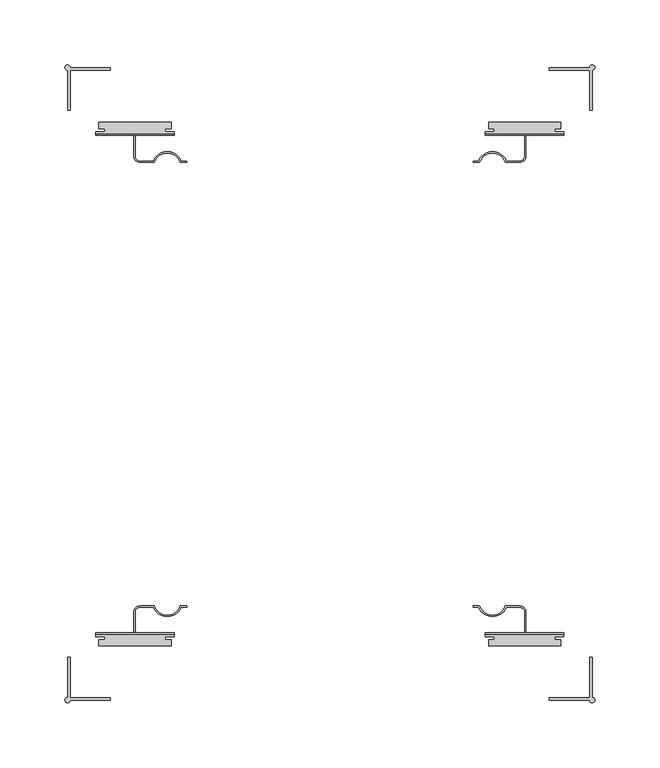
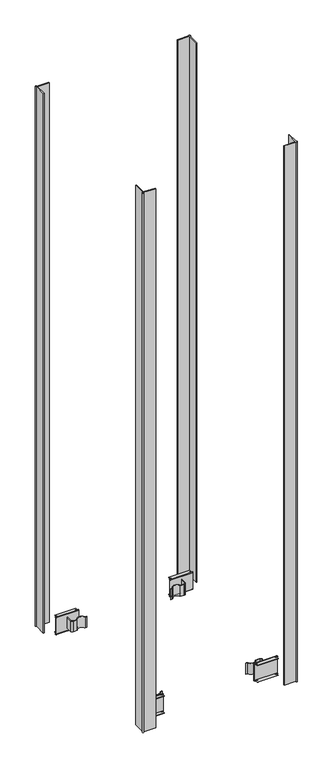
"""IFC4 building model written with IfcOpenShell, lengths in millimetres: column geometry, Облицовка колонн : КНАУФ-Файерборд один слой 20."""

from ifc_helpers import new_model, si_unit, point, frame, frame_2d, origin, origin_with_axes, place, context, project, spatial, polyline, circle_curve, trimmed, segment, composite_curve, outline, extrude, source, transform, mapped, element, save
from ifc_brep_helpers import plane_surface, cylinder_surface, advanced_brep


def column_ee933b32(model_context):
    return source(origin(), model_context, "Body", "SolidModel", [
        extrude(outline(composite_curve([segment(polyline([(169.0, -241.5), (200.0, -241.5), (200.0, -210.5), (201.9874508, -210.5), (201.9874508, -241.5436745)]), True, "CONTINUOUS"), segment(trimmed(circle_curve(frame_2d((201.9874508, -243.5311253)), 1.9874508), [point((201.9874508, -241.5436745))], [point((200.0, -243.5311253))], False, "CARTESIAN"), True, "CONTINUOUS"), segment(polyline([(200.0, -243.5311253), (169.0, -243.5311253), (169.0, -241.5)]), True, "CONTINUOUS")], self_intersect=False)), origin_with_axes(), (0.0, 0.0, 1.0), 1500.0),
        extrude(outline(composite_curve([segment(polyline([(169.0, 241.5), (169.0, 243.5311253), (200.0, 243.5311253)]), True, "CONTINUOUS"), segment(trimmed(circle_curve(frame_2d((201.9874508, 243.5311253)), 1.9874508), [point((200.0, 243.5311253))], [point((201.9874508, 241.5436745))], False, "CARTESIAN"), True, "CONTINUOUS"), segment(polyline([(201.9874508, 241.5436745), (201.9874508, 210.5), (200.0, 210.5), (200.0, 241.5), (169.0, 241.5)]), True, "CONTINUOUS")], self_intersect=False)), origin_with_axes(), (0.0, 0.0, 1.0), 1500.0),
        extrude(outline(composite_curve([segment(polyline([(-169.0, -241.5), (-169.0, -243.5311253), (-200.0, -243.5311253)]), True, "CONTINUOUS"), segment(trimmed(circle_curve(frame_2d((-201.9874508, -243.5311253)), 1.9874508), [point((-200.0, -243.5311253))], [point((-201.9874508, -241.5436745))], False, "CARTESIAN"), True, "CONTINUOUS"), segment(polyline([(-201.9874508, -241.5436745), (-201.9874508, -210.5), (-200.0, -210.5), (-200.0, -241.5), (-169.0, -241.5)]), True, "CONTINUOUS")], self_intersect=False)), origin_with_axes(), (0.0, 0.0, 1.0), 1500.0),
        extrude(outline(composite_curve([segment(polyline([(-169.0, 241.5), (-200.0, 241.5), (-200.0, 210.5), (-201.9874508, 210.5), (-201.9874508, 241.5436745)]), True, "CONTINUOUS"), segment(trimmed(circle_curve(frame_2d((-201.9874508, 243.5311253)), 1.9874508), [point((-201.9874508, 241.5436745))], [point((-200.0, 243.5311253))], False, "CARTESIAN"), True, "CONTINUOUS"), segment(polyline([(-200.0, 243.5311253), (-169.0, 243.5311253), (-169.0, 241.5)]), True, "CONTINUOUS")], self_intersect=False)), origin_with_axes(), (0.0, 0.0, 1.0), 1500.0),
        advanced_brep(
        [(-180.2, 191.5, 46.0), (-180.2, 192.5, 47.0), (-180.2, 194.5, 47.0), (-180.2, 194.5, 46.0), (-180.2, 192.5, 46.0), (-180.2, 192.5, 0.0), (-180.2, 194.5, 0.0), (-180.2, 194.5, -1.0), (-180.2, 192.5, -1.0), (-180.2, 191.5, 0.0), (-119.8, 191.5, 46.0), (-119.8, 191.5, 0.0), (-119.8, 192.5, -1.0), (-119.8, 194.5, -1.0), (-119.8, 194.5, 0.0), (-119.8, 192.5, 0.0), (-119.8, 192.5, 46.0), (-119.8, 194.5, 46.0), (-119.8, 194.5, 47.0), (-119.8, 192.5, 47.0), (-126.6838154, 194.5, 47.0), (-126.6838154, 196.8, 47.0), (-122.2, 196.8, 47.0), (-122.2, 201.5, 47.0), (-177.8, 201.5, 47.0), (-177.8, 196.8, 47.0), (-173.3161846, 196.8, 47.0), (-173.3161846, 194.5, 47.0), (-177.8, 201.5, 46.0), (-122.2, 201.5, 46.0), (-173.3161846, 194.5, 46.0), (-173.3161846, 196.8, 46.0), (-177.8, 196.8, 46.0), (-122.2, 196.8, 46.0), (-126.6838154, 196.8, 46.0), (-126.6838154, 194.5, 46.0), (-126.6838154, 194.5, 0.0), (-126.6838154, 196.8, 0.0), (-122.2, 196.8, 0.0), (-122.2, 201.5, 0.0), (-177.8, 201.5, 0.0), (-177.8, 196.8, 0.0), (-173.3161846, 196.8, 0.0), (-173.3161846, 194.5, 0.0), (-177.8, 201.5, -1.0), (-122.2, 201.5, -1.0), (-173.3161846, 194.5, -1.0), (-173.3161846, 196.8, -1.0), (-177.8, 196.8, -1.0), (-122.2, 196.8, -1.0), (-126.6838154, 196.8, -1.0), (-126.6838154, 194.5, -1.0)],
        [
            (0, 1, circle_curve(frame((-180.2, 192.5, 46.0), z_axis=(-1.0, 0.0, 0.0), x_axis=(0.0, -1.0, 0.0)), 1.0)),
            (1, 2),
            (2, 3),
            (3, 4),
            (4, 5),
            (5, 6),
            (6, 7),
            (7, 8),
            (8, 9, circle_curve(frame((-180.2, 192.5, 0.0), z_axis=(-1.0, 0.0, 0.0), x_axis=(0.0, -1.0, 0.0)), 1.0)),
            (9, 0),
            (10, 11),
            (11, 12, circle_curve(frame((-119.8, 192.5, 0.0), z_axis=(1.0, 0.0, 0.0), x_axis=(0.0, -1.0, 0.0)), 1.0)),
            (12, 13),
            (13, 14),
            (14, 15),
            (15, 16),
            (16, 17),
            (17, 18),
            (18, 19),
            (19, 10, circle_curve(frame((-119.8, 192.5, 46.0), z_axis=(1.0, 0.0, 0.0), x_axis=(0.0, -1.0, 0.0)), 1.0)),
            (0, 10),
            (19, 1),
            (18, 20),
            (20, 21),
            (21, 22),
            (22, 23),
            (23, 24),
            (24, 25),
            (25, 26),
            (26, 27),
            (27, 2),
            (28, 24),
            (23, 29),
            (29, 28),
            (16, 4),
            (3, 30),
            (30, 31),
            (31, 32),
            (32, 28),
            (29, 33),
            (33, 34),
            (34, 35),
            (35, 17),
            (15, 5),
            (14, 36),
            (36, 37),
            (37, 38),
            (38, 39),
            (39, 40),
            (40, 41),
            (41, 42),
            (42, 43),
            (43, 6),
            (44, 40),
            (39, 45),
            (45, 44),
            (12, 8),
            (7, 46),
            (46, 47),
            (47, 48),
            (48, 44),
            (45, 49),
            (49, 50),
            (50, 51),
            (51, 13),
            (11, 9),
            (30, 27),
            (26, 31),
            (46, 43),
            (42, 47),
            (25, 32),
            (41, 48),
            (34, 21),
            (20, 35),
            (50, 37),
            (36, 51),
            (33, 22),
            (49, 38),
        ],
        [
            plane_surface(frame((-180.2, 191.5, 46.0), z_axis=(-1.0, 0.0, 0.0), x_axis=(0.0, 0.0, 1.0))),
            plane_surface(frame((-119.8, 191.5, 46.0), z_axis=(1.0, 0.0, 0.0), x_axis=(0.0, 0.0, -1.0))),
            cylinder_surface(frame((-119.8, 192.5, 46.0), z_axis=(-1.0, 0.0, 0.0), x_axis=(0.0, -1.0, 0.0)), 1.0),
            plane_surface(frame((-180.2, 192.5, 47.0), z_axis=(0.0, 0.0, 1.0), x_axis=(1.0, 0.0, 0.0))),
            plane_surface(frame((-180.2, 201.5, 47.0), z_axis=(0.0, 1.0, 0.0), x_axis=(1.0, 0.0, 0.0))),
            plane_surface(frame((-180.2, 201.5, 46.0), z_axis=(0.0, 0.0, -1.0), x_axis=(1.0, 0.0, 0.0))),
            plane_surface(frame((-180.2, 192.5, 46.0), z_axis=(0.0, 1.0, 0.0), x_axis=(1.0, 0.0, 0.0))),
            plane_surface(frame((-180.2, 192.5, 0.0), z_axis=(0.0, 0.0, 1.0), x_axis=(1.0, 0.0, 0.0))),
            plane_surface(frame((-180.2, 201.5, 0.0), z_axis=(0.0, 1.0, 0.0), x_axis=(1.0, 0.0, 0.0))),
            plane_surface(frame((-180.2, 201.5, -1.0), z_axis=(0.0, 0.0, -1.0), x_axis=(1.0, 0.0, 0.0))),
            cylinder_surface(frame((-119.8, 192.5, 0.0), z_axis=(-1.0, 0.0, 0.0), x_axis=(0.0, -1.0, 0.0)), 1.0),
            plane_surface(frame((-180.2, 191.5, 0.0), z_axis=(0.0, -1.0, 0.0), x_axis=(1.0, 0.0, 0.0))),
            plane_surface(frame((-173.3161846, 194.5, 47.0), z_axis=(-1.0, 0.0, 0.0), x_axis=(0.0, 0.0, -1.0))),
            plane_surface(frame((-173.3161846, 196.8, 47.0), z_axis=(0.0, -1.0, 0.0), x_axis=(0.0, 0.0, -1.0))),
            plane_surface(frame((-177.8, 196.8, 47.0), z_axis=(-1.0, 0.0, 0.0), x_axis=(0.0, 0.0, -1.0))),
            plane_surface(frame((-180.2, 194.5, 47.0), z_axis=(0.0, 1.0, 0.0), x_axis=(0.0, 0.0, -1.0))),
            plane_surface(frame((-126.6838154, 196.8, 47.0), z_axis=(1.0, 0.0, 0.0), x_axis=(0.0, 0.0, -1.0))),
            plane_surface(frame((-122.2, 196.8, 47.0), z_axis=(0.0, -1.0, 0.0), x_axis=(0.0, 0.0, -1.0))),
            plane_surface(frame((-122.2, 201.5, 47.0), z_axis=(1.0, 0.0, 0.0), x_axis=(0.0, 0.0, -1.0))),
            plane_surface(frame((-126.6838154, 194.5, 47.0), z_axis=(0.0, 1.0, 0.0), x_axis=(0.0, 0.0, -1.0))),
        ],
        [
            (0, [[1, 2, 3, 4, 5, 6, 7, 8, 9, 10]]),
            (1, [[11, 12, 13, 14, 15, 16, 17, 18, 19, 20]]),
            (2, [[-1, 21, -20, 22]]),
            (3, [[-22, -19, 23, 24, 25, 26, 27, 28, 29, 30, 31, -2]]),
            (4, [[32, -27, 33, 34]]),
            (5, [[35, -4, 36, 37, 38, 39, -34, 40, 41, 42, 43, -17]]),
            (6, [[-5, -35, -16, 44]]),
            (7, [[-44, -15, 45, 46, 47, 48, 49, 50, 51, 52, 53, -6]]),
            (8, [[54, -49, 55, 56]]),
            (9, [[57, -8, 58, 59, 60, 61, -56, 62, 63, 64, 65, -13]]),
            (10, [[-9, -57, -12, 66]]),
            (11, [[-10, -66, -11, -21]]),
            (12, [[67, -30, 68, -37]]),
            (12, [[69, -52, 70, -59]]),
            (13, [[-68, -29, 71, -38]]),
            (13, [[-70, -51, 72, -60]]),
            (14, [[-71, -28, -32, -39]]),
            (14, [[-72, -50, -54, -61]]),
            (15, [[-67, -36, -3, -31]]),
            (15, [[-69, -58, -7, -53]]),
            (16, [[73, -24, 74, -42]]),
            (16, [[75, -46, 76, -64]]),
            (17, [[-73, -41, 77, -25]]),
            (17, [[-75, -63, 78, -47]]),
            (18, [[-77, -40, -33, -26]]),
            (18, [[-78, -62, -55, -48]]),
            (19, [[-74, -23, -18, -43]]),
            (19, [[-76, -45, -14, -65]]),
        ],
    ),
        extrude(outline(composite_curve([segment(trimmed(circle_curve(frame_2d((-125.2, 167.4974781)), 10.5025219), [point((-115.2, 170.7073015))], [point((-135.2, 170.7073015))], True, "CARTESIAN"), True, "CONTINUOUS"), segment(polyline([(-135.2, 170.7073015), (-146.0, 170.7073015)]), True, "CONTINUOUS"), segment(trimmed(circle_curve(frame_2d((-146.0, 175.7073015)), 5.0), [point((-146.0, 170.7073015))], [point((-151.0, 175.7073015))], False, "CARTESIAN"), True, "CONTINUOUS"), segment(polyline([(-151.0, 175.7073015), (-151.0, 191.5), (-150.0, 191.5), (-150.0, 175.7073015)]), True, "CONTINUOUS"), segment(trimmed(circle_curve(frame_2d((-146.0, 175.7073015)), 4.0), [point((-150.0, 175.7073015))], [point((-146.0, 171.7073015))], True, "CARTESIAN"), True, "CONTINUOUS"), segment(polyline([(-146.0, 171.7073015), (-135.9044569, 171.7073015)]), True, "CONTINUOUS"), segment(trimmed(circle_curve(frame_2d((-125.2, 167.4974781)), 11.5025219), [point((-135.9044569, 171.7073015))], [point((-114.4955431, 171.7073015))], False, "CARTESIAN"), True, "CONTINUOUS"), segment(polyline([(-114.4955431, 171.7073015), (-110.2, 171.7073015), (-110.2, 170.7073015), (-115.2, 170.7073015)]), True, "CONTINUOUS")], self_intersect=False)), frame((0.0, 0.0, 8.0), z_axis=(0.0, 0.0, 1.0), x_axis=(1.0, 0.0, 0.0)), (0.0, 0.0, 1.0), 30.0),
        advanced_brep(
        [(180.2, 191.5, 46.0), (180.2, 191.5, 0.0), (180.2, 192.5, -1.0), (180.2, 194.5, -1.0), (180.2, 194.5, 0.0), (180.2, 192.5, 0.0), (180.2, 192.5, 46.0), (180.2, 194.5, 46.0), (180.2, 194.5, 47.0), (180.2, 192.5, 47.0), (119.8, 191.5, 46.0), (119.8, 192.5, 47.0), (119.8, 194.5, 47.0), (119.8, 194.5, 46.0), (119.8, 192.5, 46.0), (119.8, 192.5, 0.0), (119.8, 194.5, 0.0), (119.8, 194.5, -1.0), (119.8, 192.5, -1.0), (119.8, 191.5, 0.0), (173.3161846, 194.5, 47.0), (173.3161846, 196.8, 47.0), (177.8, 196.8, 47.0), (177.8, 201.5, 47.0), (122.2, 201.5, 47.0), (122.2, 196.8, 47.0), (126.6838154, 196.8, 47.0), (126.6838154, 194.5, 47.0), (177.8, 201.5, 46.0), (122.2, 201.5, 46.0), (126.6838154, 194.5, 46.0), (126.6838154, 196.8, 46.0), (122.2, 196.8, 46.0), (177.8, 196.8, 46.0), (173.3161846, 196.8, 46.0), (173.3161846, 194.5, 46.0), (173.3161846, 194.5, 0.0), (173.3161846, 196.8, 0.0), (177.8, 196.8, 0.0), (177.8, 201.5, 0.0), (122.2, 201.5, 0.0), (122.2, 196.8, 0.0), (126.6838154, 196.8, 0.0), (126.6838154, 194.5, 0.0), (177.8, 201.5, -1.0), (122.2, 201.5, -1.0), (126.6838154, 194.5, -1.0), (126.6838154, 196.8, -1.0), (122.2, 196.8, -1.0), (177.8, 196.8, -1.0), (173.3161846, 196.8, -1.0), (173.3161846, 194.5, -1.0)],
        [
            (0, 1),
            (1, 2, circle_curve(frame((180.2, 192.5, 0.0), z_axis=(1.0, 0.0, 0.0), x_axis=(0.0, -1.0, 0.0)), 1.0)),
            (2, 3),
            (3, 4),
            (4, 5),
            (5, 6),
            (6, 7),
            (7, 8),
            (8, 9),
            (9, 0, circle_curve(frame((180.2, 192.5, 46.0), z_axis=(1.0, 0.0, 0.0), x_axis=(0.0, -1.0, 0.0)), 1.0)),
            (10, 11, circle_curve(frame((119.8, 192.5, 46.0), z_axis=(-1.0, 0.0, 0.0), x_axis=(0.0, -1.0, 0.0)), 1.0)),
            (11, 12),
            (12, 13),
            (13, 14),
            (14, 15),
            (15, 16),
            (16, 17),
            (17, 18),
            (18, 19, circle_curve(frame((119.8, 192.5, 0.0), z_axis=(-1.0, 0.0, 0.0), x_axis=(0.0, -1.0, 0.0)), 1.0)),
            (19, 10),
            (9, 11),
            (10, 0),
            (8, 20),
            (20, 21),
            (21, 22),
            (22, 23),
            (23, 24),
            (24, 25),
            (25, 26),
            (26, 27),
            (27, 12),
            (28, 29),
            (29, 24),
            (23, 28),
            (13, 30),
            (30, 31),
            (31, 32),
            (32, 29),
            (28, 33),
            (33, 34),
            (34, 35),
            (35, 7),
            (6, 14),
            (5, 15),
            (4, 36),
            (36, 37),
            (37, 38),
            (38, 39),
            (39, 40),
            (40, 41),
            (41, 42),
            (42, 43),
            (43, 16),
            (44, 45),
            (45, 40),
            (39, 44),
            (17, 46),
            (46, 47),
            (47, 48),
            (48, 45),
            (44, 49),
            (49, 50),
            (50, 51),
            (51, 3),
            (2, 18),
            (1, 19),
            (34, 21),
            (20, 35),
            (50, 37),
            (36, 51),
            (33, 22),
            (49, 38),
            (30, 27),
            (26, 31),
            (46, 43),
            (42, 47),
            (25, 32),
            (41, 48),
        ],
        [
            plane_surface(frame((180.2, 191.5, 46.0), z_axis=(1.0, 0.0, 0.0), x_axis=(0.0, 0.0, 1.0))),
            plane_surface(frame((119.8, 191.5, 46.0), z_axis=(-1.0, 0.0, 0.0), x_axis=(0.0, 0.0, -1.0))),
            cylinder_surface(frame((119.8, 192.5, 46.0), z_axis=(1.0, 0.0, 0.0), x_axis=(0.0, -1.0, 0.0)), 1.0),
            plane_surface(frame((180.2, 192.5, 47.0), z_axis=(0.0, 0.0, 1.0), x_axis=(-1.0, 0.0, 0.0))),
            plane_surface(frame((180.2, 201.5, 47.0), z_axis=(0.0, 1.0, 0.0), x_axis=(-1.0, 0.0, 0.0))),
            plane_surface(frame((180.2, 201.5, 46.0), z_axis=(0.0, 0.0, -1.0), x_axis=(-1.0, 0.0, 0.0))),
            plane_surface(frame((180.2, 192.5, 46.0), z_axis=(0.0, 1.0, 0.0), x_axis=(-1.0, 0.0, 0.0))),
            plane_surface(frame((180.2, 192.5, 0.0), z_axis=(0.0, 0.0, 1.0), x_axis=(-1.0, 0.0, 0.0))),
            plane_surface(frame((180.2, 201.5, 0.0), z_axis=(0.0, 1.0, 0.0), x_axis=(-1.0, 0.0, 0.0))),
            plane_surface(frame((180.2, 201.5, -1.0), z_axis=(0.0, 0.0, -1.0), x_axis=(-1.0, 0.0, 0.0))),
            cylinder_surface(frame((119.8, 192.5, 0.0), z_axis=(1.0, 0.0, 0.0), x_axis=(0.0, -1.0, 0.0)), 1.0),
            plane_surface(frame((180.2, 191.5, 0.0), z_axis=(0.0, -1.0, 0.0), x_axis=(-1.0, 0.0, 0.0))),
            plane_surface(frame((173.3161846, 194.5, 47.0), z_axis=(1.0, 0.0, 0.0), x_axis=(0.0, 0.0, -1.0))),
            plane_surface(frame((173.3161846, 196.8, 47.0), z_axis=(0.0, -1.0, 0.0), x_axis=(0.0, 0.0, -1.0))),
            plane_surface(frame((177.8, 196.8, 47.0), z_axis=(1.0, 0.0, 0.0), x_axis=(0.0, 0.0, -1.0))),
            plane_surface(frame((180.2, 194.5, 47.0), z_axis=(0.0, 1.0, 0.0), x_axis=(0.0, 0.0, -1.0))),
            plane_surface(frame((126.6838154, 196.8, 47.0), z_axis=(-1.0, 0.0, 0.0), x_axis=(0.0, 0.0, -1.0))),
            plane_surface(frame((122.2, 196.8, 47.0), z_axis=(0.0, -1.0, 0.0), x_axis=(0.0, 0.0, -1.0))),
            plane_surface(frame((122.2, 201.5, 47.0), z_axis=(-1.0, 0.0, 0.0), x_axis=(0.0, 0.0, -1.0))),
            plane_surface(frame((126.6838154, 194.5, 47.0), z_axis=(0.0, 1.0, 0.0), x_axis=(0.0, 0.0, -1.0))),
        ],
        [
            (0, [[1, 2, 3, 4, 5, 6, 7, 8, 9, 10]]),
            (1, [[11, 12, 13, 14, 15, 16, 17, 18, 19, 20]]),
            (2, [[21, -11, 22, -10]]),
            (3, [[-9, 23, 24, 25, 26, 27, 28, 29, 30, 31, -12, -21]]),
            (4, [[32, 33, -27, 34]]),
            (5, [[-14, 35, 36, 37, 38, -32, 39, 40, 41, 42, -7, 43]]),
            (6, [[44, -15, -43, -6]]),
            (7, [[-5, 45, 46, 47, 48, 49, 50, 51, 52, 53, -16, -44]]),
            (8, [[54, 55, -49, 56]]),
            (9, [[-18, 57, 58, 59, 60, -54, 61, 62, 63, 64, -3, 65]]),
            (10, [[66, -19, -65, -2]]),
            (11, [[-22, -20, -66, -1]]),
            (12, [[-41, 67, -24, 68]]),
            (12, [[-63, 69, -46, 70]]),
            (13, [[-40, 71, -25, -67]]),
            (13, [[-62, 72, -47, -69]]),
            (14, [[-39, -34, -26, -71]]),
            (14, [[-61, -56, -48, -72]]),
            (15, [[-23, -8, -42, -68]]),
            (15, [[-45, -4, -64, -70]]),
            (16, [[-36, 73, -30, 74]]),
            (16, [[-58, 75, -52, 76]]),
            (17, [[-29, 77, -37, -74]]),
            (17, [[-51, 78, -59, -76]]),
            (18, [[-28, -33, -38, -77]]),
            (18, [[-50, -55, -60, -78]]),
            (19, [[-35, -13, -31, -73]]),
            (19, [[-57, -17, -53, -75]]),
        ],
    ),
        extrude(outline(composite_curve([segment(polyline([(115.2, 170.7073015), (110.2, 170.7073015), (110.2, 171.7073015), (114.4955431, 171.7073015)]), True, "CONTINUOUS"), segment(trimmed(circle_curve(frame_2d((125.2, 167.4974781)), 11.5025219), [point((114.4955431, 171.7073015))], [point((135.9044569, 171.7073015))], False, "CARTESIAN"), True, "CONTINUOUS"), segment(polyline([(135.9044569, 171.7073015), (146.0, 171.7073015)]), True, "CONTINUOUS"), segment(trimmed(circle_curve(frame_2d((146.0, 175.7073015)), 4.0), [point((146.0, 171.7073015))], [point((150.0, 175.7073015))], True, "CARTESIAN"), True, "CONTINUOUS"), segment(polyline([(150.0, 175.7073015), (150.0, 191.5), (151.0, 191.5), (151.0, 175.7073015)]), True, "CONTINUOUS"), segment(trimmed(circle_curve(frame_2d((146.0, 175.7073015)), 5.0), [point((151.0, 175.7073015))], [point((146.0, 170.7073015))], False, "CARTESIAN"), True, "CONTINUOUS"), segment(polyline([(146.0, 170.7073015), (135.2, 170.7073015)]), True, "CONTINUOUS"), segment(trimmed(circle_curve(frame_2d((125.2, 167.4974781)), 10.5025219), [point((135.2, 170.7073015))], [point((115.2, 170.7073015))], True, "CARTESIAN"), True, "CONTINUOUS")], self_intersect=False)), frame((0.0, 0.0, 8.0), z_axis=(0.0, 0.0, 1.0), x_axis=(1.0, 0.0, 0.0)), (0.0, 0.0, 1.0), 30.0),
        advanced_brep(
        [(-180.2, -191.5, 46.0), (-180.2, -191.5, 0.0), (-180.2, -192.5, -1.0), (-180.2, -194.5, -1.0), (-180.2, -194.5, 0.0), (-180.2, -192.5, 0.0), (-180.2, -192.5, 46.0), (-180.2, -194.5, 46.0), (-180.2, -194.5, 47.0), (-180.2, -192.5, 47.0), (-119.8, -191.5, 46.0), (-119.8, -192.5, 47.0), (-119.8, -194.5, 47.0), (-119.8, -194.5, 46.0), (-119.8, -192.5, 46.0), (-119.8, -192.5, 0.0), (-119.8, -194.5, 0.0), (-119.8, -194.5, -1.0), (-119.8, -192.5, -1.0), (-119.8, -191.5, 0.0), (-173.3161846, -194.5, 47.0), (-173.3161846, -196.8, 47.0), (-177.8, -196.8, 47.0), (-177.8, -201.5, 47.0), (-122.2, -201.5, 47.0), (-122.2, -196.8, 47.0), (-126.6838154, -196.8, 47.0), (-126.6838154, -194.5, 47.0), (-177.8, -201.5, 46.0), (-122.2, -201.5, 46.0), (-126.6838154, -194.5, 46.0), (-126.6838154, -196.8, 46.0), (-122.2, -196.8, 46.0), (-177.8, -196.8, 46.0), (-173.3161846, -196.8, 46.0), (-173.3161846, -194.5, 46.0), (-173.3161846, -194.5, 0.0), (-173.3161846, -196.8, 0.0), (-177.8, -196.8, 0.0), (-177.8, -201.5, 0.0), (-122.2, -201.5, 0.0), (-122.2, -196.8, 0.0), (-126.6838154, -196.8, 0.0), (-126.6838154, -194.5, 0.0), (-177.8, -201.5, -1.0), (-122.2, -201.5, -1.0), (-126.6838154, -194.5, -1.0), (-126.6838154, -196.8, -1.0), (-122.2, -196.8, -1.0), (-177.8, -196.8, -1.0), (-173.3161846, -196.8, -1.0), (-173.3161846, -194.5, -1.0)],
        [
            (0, 1),
            (1, 2, circle_curve(frame((-180.2, -192.5, 0.0), z_axis=(-1.0, 0.0, 0.0), x_axis=(0.0, 1.0, 0.0)), 1.0)),
            (2, 3),
            (3, 4),
            (4, 5),
            (5, 6),
            (6, 7),
            (7, 8),
            (8, 9),
            (9, 0, circle_curve(frame((-180.2, -192.5, 46.0), z_axis=(-1.0, 0.0, 0.0), x_axis=(0.0, 1.0, 0.0)), 1.0)),
            (10, 11, circle_curve(frame((-119.8, -192.5, 46.0), z_axis=(1.0, 0.0, 0.0), x_axis=(0.0, 1.0, 0.0)), 1.0)),
            (11, 12),
            (12, 13),
            (13, 14),
            (14, 15),
            (15, 16),
            (16, 17),
            (17, 18),
            (18, 19, circle_curve(frame((-119.8, -192.5, 0.0), z_axis=(1.0, 0.0, 0.0), x_axis=(0.0, 1.0, 0.0)), 1.0)),
            (19, 10),
            (9, 11),
            (10, 0),
            (8, 20),
            (20, 21),
            (21, 22),
            (22, 23),
            (23, 24),
            (24, 25),
            (25, 26),
            (26, 27),
            (27, 12),
            (28, 29),
            (29, 24),
            (23, 28),
            (13, 30),
            (30, 31),
            (31, 32),
            (32, 29),
            (28, 33),
            (33, 34),
            (34, 35),
            (35, 7),
            (6, 14),
            (5, 15),
            (4, 36),
            (36, 37),
            (37, 38),
            (38, 39),
            (39, 40),
            (40, 41),
            (41, 42),
            (42, 43),
            (43, 16),
            (44, 45),
            (45, 40),
            (39, 44),
            (17, 46),
            (46, 47),
            (47, 48),
            (48, 45),
            (44, 49),
            (49, 50),
            (50, 51),
            (51, 3),
            (2, 18),
            (1, 19),
            (34, 21),
            (20, 35),
            (50, 37),
            (36, 51),
            (33, 22),
            (49, 38),
            (30, 27),
            (26, 31),
            (46, 43),
            (42, 47),
            (25, 32),
            (41, 48),
        ],
        [
            plane_surface(frame((-180.2, -191.5, 46.0), z_axis=(-1.0, 0.0, 0.0), x_axis=(0.0, 0.0, 1.0))),
            plane_surface(frame((-119.8, -191.5, 46.0), z_axis=(1.0, 0.0, 0.0), x_axis=(0.0, 0.0, -1.0))),
            cylinder_surface(frame((-119.8, -192.5, 46.0), z_axis=(-1.0, 0.0, 0.0), x_axis=(0.0, 1.0, 0.0)), 1.0),
            plane_surface(frame((-180.2, -192.5, 47.0), z_axis=(0.0, 0.0, 1.0), x_axis=(1.0, 0.0, 0.0))),
            plane_surface(frame((-180.2, -201.5, 47.0), z_axis=(0.0, -1.0, 0.0), x_axis=(1.0, 0.0, 0.0))),
            plane_surface(frame((-180.2, -201.5, 46.0), z_axis=(0.0, 0.0, -1.0), x_axis=(1.0, 0.0, 0.0))),
            plane_surface(frame((-180.2, -192.5, 46.0), z_axis=(0.0, -1.0, 0.0), x_axis=(1.0, 0.0, 0.0))),
            plane_surface(frame((-180.2, -192.5, 0.0), z_axis=(0.0, 0.0, 1.0), x_axis=(1.0, 0.0, 0.0))),
            plane_surface(frame((-180.2, -201.5, 0.0), z_axis=(0.0, -1.0, 0.0), x_axis=(1.0, 0.0, 0.0))),
            plane_surface(frame((-180.2, -201.5, -1.0), z_axis=(0.0, 0.0, -1.0), x_axis=(1.0, 0.0, 0.0))),
            cylinder_surface(frame((-119.8, -192.5, 0.0), z_axis=(-1.0, 0.0, 0.0), x_axis=(0.0, 1.0, 0.0)), 1.0),
            plane_surface(frame((-180.2, -191.5, 0.0), z_axis=(0.0, 1.0, 0.0), x_axis=(1.0, 0.0, 0.0))),
            plane_surface(frame((-173.3161846, -194.5, 47.0), z_axis=(-1.0, 0.0, 0.0), x_axis=(0.0, 0.0, -1.0))),
            plane_surface(frame((-173.3161846, -196.8, 47.0), z_axis=(0.0, 1.0, 0.0), x_axis=(0.0, 0.0, -1.0))),
            plane_surface(frame((-177.8, -196.8, 47.0), z_axis=(-1.0, 0.0, 0.0), x_axis=(0.0, 0.0, -1.0))),
            plane_surface(frame((-180.2, -194.5, 47.0), z_axis=(0.0, -1.0, 0.0), x_axis=(0.0, 0.0, -1.0))),
            plane_surface(frame((-126.6838154, -196.8, 47.0), z_axis=(1.0, 0.0, 0.0), x_axis=(0.0, 0.0, -1.0))),
            plane_surface(frame((-122.2, -196.8, 47.0), z_axis=(0.0, 1.0, 0.0), x_axis=(0.0, 0.0, -1.0))),
            plane_surface(frame((-122.2, -201.5, 47.0), z_axis=(1.0, 0.0, 0.0), x_axis=(0.0, 0.0, -1.0))),
            plane_surface(frame((-126.6838154, -194.5, 47.0), z_axis=(0.0, -1.0, 0.0), x_axis=(0.0, 0.0, -1.0))),
        ],
        [
            (0, [[1, 2, 3, 4, 5, 6, 7, 8, 9, 10]]),
            (1, [[11, 12, 13, 14, 15, 16, 17, 18, 19, 20]]),
            (2, [[21, -11, 22, -10]]),
            (3, [[-9, 23, 24, 25, 26, 27, 28, 29, 30, 31, -12, -21]]),
            (4, [[32, 33, -27, 34]]),
            (5, [[-14, 35, 36, 37, 38, -32, 39, 40, 41, 42, -7, 43]]),
            (6, [[44, -15, -43, -6]]),
            (7, [[-5, 45, 46, 47, 48, 49, 50, 51, 52, 53, -16, -44]]),
            (8, [[54, 55, -49, 56]]),
            (9, [[-18, 57, 58, 59, 60, -54, 61, 62, 63, 64, -3, 65]]),
            (10, [[66, -19, -65, -2]]),
            (11, [[-22, -20, -66, -1]]),
            (12, [[-41, 67, -24, 68]]),
            (12, [[-63, 69, -46, 70]]),
            (13, [[-40, 71, -25, -67]]),
            (13, [[-62, 72, -47, -69]]),
            (14, [[-39, -34, -26, -71]]),
            (14, [[-61, -56, -48, -72]]),
            (15, [[-23, -8, -42, -68]]),
            (15, [[-45, -4, -64, -70]]),
            (16, [[-36, 73, -30, 74]]),
            (16, [[-58, 75, -52, 76]]),
            (17, [[-29, 77, -37, -74]]),
            (17, [[-51, 78, -59, -76]]),
            (18, [[-28, -33, -38, -77]]),
            (18, [[-50, -55, -60, -78]]),
            (19, [[-35, -13, -31, -73]]),
            (19, [[-57, -17, -53, -75]]),
        ],
    ),
        extrude(outline(composite_curve([segment(polyline([(-115.2, -170.7073015), (-110.2, -170.7073015), (-110.2, -171.7073015), (-114.4955431, -171.7073015)]), True, "CONTINUOUS"), segment(trimmed(circle_curve(frame_2d((-125.2, -167.4974781)), 11.5025219), [point((-114.4955431, -171.7073015))], [point((-135.9044569, -171.7073015))], False, "CARTESIAN"), True, "CONTINUOUS"), segment(polyline([(-135.9044569, -171.7073015), (-146.0, -171.7073015)]), True, "CONTINUOUS"), segment(trimmed(circle_curve(frame_2d((-146.0, -175.7073015)), 4.0), [point((-146.0, -171.7073015))], [point((-150.0, -175.7073015))], True, "CARTESIAN"), True, "CONTINUOUS"), segment(polyline([(-150.0, -175.7073015), (-150.0, -191.5), (-151.0, -191.5), (-151.0, -175.7073015)]), True, "CONTINUOUS"), segment(trimmed(circle_curve(frame_2d((-146.0, -175.7073015)), 5.0), [point((-151.0, -175.7073015))], [point((-146.0, -170.7073015))], False, "CARTESIAN"), True, "CONTINUOUS"), segment(polyline([(-146.0, -170.7073015), (-135.2, -170.7073015)]), True, "CONTINUOUS"), segment(trimmed(circle_curve(frame_2d((-125.2, -167.4974781)), 10.5025219), [point((-135.2, -170.7073015))], [point((-115.2, -170.7073015))], True, "CARTESIAN"), True, "CONTINUOUS")], self_intersect=False)), frame((0.0, 0.0, 8.0), z_axis=(0.0, 0.0, 1.0), x_axis=(1.0, 0.0, 0.0)), (0.0, 0.0, 1.0), 30.0),
        advanced_brep(
        [(180.2, -191.5, 46.0), (180.2, -192.5, 47.0), (180.2, -194.5, 47.0), (180.2, -194.5, 46.0), (180.2, -192.5, 46.0), (180.2, -192.5, 0.0), (180.2, -194.5, 0.0), (180.2, -194.5, -1.0), (180.2, -192.5, -1.0), (180.2, -191.5, 0.0), (119.8, -191.5, 46.0), (119.8, -191.5, 0.0), (119.8, -192.5, -1.0), (119.8, -194.5, -1.0), (119.8, -194.5, 0.0), (119.8, -192.5, 0.0), (119.8, -192.5, 46.0), (119.8, -194.5, 46.0), (119.8, -194.5, 47.0), (119.8, -192.5, 47.0), (126.6838154, -194.5, 47.0), (126.6838154, -196.8, 47.0), (122.2, -196.8, 47.0), (122.2, -201.5, 47.0), (177.8, -201.5, 47.0), (177.8, -196.8, 47.0), (173.3161846, -196.8, 47.0), (173.3161846, -194.5, 47.0), (177.8, -201.5, 46.0), (122.2, -201.5, 46.0), (173.3161846, -194.5, 46.0), (173.3161846, -196.8, 46.0), (177.8, -196.8, 46.0), (122.2, -196.8, 46.0), (126.6838154, -196.8, 46.0), (126.6838154, -194.5, 46.0), (126.6838154, -194.5, 0.0), (126.6838154, -196.8, 0.0), (122.2, -196.8, 0.0), (122.2, -201.5, 0.0), (177.8, -201.5, 0.0), (177.8, -196.8, 0.0), (173.3161846, -196.8, 0.0), (173.3161846, -194.5, 0.0), (177.8, -201.5, -1.0), (122.2, -201.5, -1.0), (173.3161846, -194.5, -1.0), (173.3161846, -196.8, -1.0), (177.8, -196.8, -1.0), (122.2, -196.8, -1.0), (126.6838154, -196.8, -1.0), (126.6838154, -194.5, -1.0)],
        [
            (0, 1, circle_curve(frame((180.2, -192.5, 46.0), z_axis=(1.0, 0.0, 0.0), x_axis=(0.0, 1.0, 0.0)), 1.0)),
            (1, 2),
            (2, 3),
            (3, 4),
            (4, 5),
            (5, 6),
            (6, 7),
            (7, 8),
            (8, 9, circle_curve(frame((180.2, -192.5, 0.0), z_axis=(1.0, 0.0, 0.0), x_axis=(0.0, 1.0, 0.0)), 1.0)),
            (9, 0),
            (10, 11),
            (11, 12, circle_curve(frame((119.8, -192.5, 0.0), z_axis=(-1.0, 0.0, 0.0), x_axis=(0.0, 1.0, 0.0)), 1.0)),
            (12, 13),
            (13, 14),
            (14, 15),
            (15, 16),
            (16, 17),
            (17, 18),
            (18, 19),
            (19, 10, circle_curve(frame((119.8, -192.5, 46.0), z_axis=(-1.0, 0.0, 0.0), x_axis=(0.0, 1.0, 0.0)), 1.0)),
            (0, 10),
            (19, 1),
            (18, 20),
            (20, 21),
            (21, 22),
            (22, 23),
            (23, 24),
            (24, 25),
            (25, 26),
            (26, 27),
            (27, 2),
            (28, 24),
            (23, 29),
            (29, 28),
            (16, 4),
            (3, 30),
            (30, 31),
            (31, 32),
            (32, 28),
            (29, 33),
            (33, 34),
            (34, 35),
            (35, 17),
            (15, 5),
            (14, 36),
            (36, 37),
            (37, 38),
            (38, 39),
            (39, 40),
            (40, 41),
            (41, 42),
            (42, 43),
            (43, 6),
            (44, 40),
            (39, 45),
            (45, 44),
            (12, 8),
            (7, 46),
            (46, 47),
            (47, 48),
            (48, 44),
            (45, 49),
            (49, 50),
            (50, 51),
            (51, 13),
            (11, 9),
            (30, 27),
            (26, 31),
            (46, 43),
            (42, 47),
            (25, 32),
            (41, 48),
            (34, 21),
            (20, 35),
            (50, 37),
            (36, 51),
            (33, 22),
            (49, 38),
        ],
        [
            plane_surface(frame((180.2, -191.5, 46.0), z_axis=(1.0, 0.0, 0.0), x_axis=(0.0, 0.0, 1.0))),
            plane_surface(frame((119.8, -191.5, 46.0), z_axis=(-1.0, 0.0, 0.0), x_axis=(0.0, 0.0, -1.0))),
            cylinder_surface(frame((119.8, -192.5, 46.0), z_axis=(1.0, 0.0, 0.0), x_axis=(0.0, 1.0, 0.0)), 1.0),
            plane_surface(frame((180.2, -192.5, 47.0), z_axis=(0.0, 0.0, 1.0), x_axis=(-1.0, 0.0, 0.0))),
            plane_surface(frame((180.2, -201.5, 47.0), z_axis=(0.0, -1.0, 0.0), x_axis=(-1.0, 0.0, 0.0))),
            plane_surface(frame((180.2, -201.5, 46.0), z_axis=(0.0, 0.0, -1.0), x_axis=(-1.0, 0.0, 0.0))),
            plane_surface(frame((180.2, -192.5, 46.0), z_axis=(0.0, -1.0, 0.0), x_axis=(-1.0, 0.0, 0.0))),
            plane_surface(frame((180.2, -192.5, 0.0), z_axis=(0.0, 0.0, 1.0), x_axis=(-1.0, 0.0, 0.0))),
            plane_surface(frame((180.2, -201.5, 0.0), z_axis=(0.0, -1.0, 0.0), x_axis=(-1.0, 0.0, 0.0))),
            plane_surface(frame((180.2, -201.5, -1.0), z_axis=(0.0, 0.0, -1.0), x_axis=(-1.0, 0.0, 0.0))),
            cylinder_surface(frame((119.8, -192.5, 0.0), z_axis=(1.0, 0.0, 0.0), x_axis=(0.0, 1.0, 0.0)), 1.0),
            plane_surface(frame((180.2, -191.5, 0.0), z_axis=(0.0, 1.0, 0.0), x_axis=(-1.0, 0.0, 0.0))),
            plane_surface(frame((173.3161846, -194.5, 47.0), z_axis=(1.0, 0.0, 0.0), x_axis=(0.0, 0.0, -1.0))),
            plane_surface(frame((173.3161846, -196.8, 47.0), z_axis=(0.0, 1.0, 0.0), x_axis=(0.0, 0.0, -1.0))),
            plane_surface(frame((177.8, -196.8, 47.0), z_axis=(1.0, 0.0, 0.0), x_axis=(0.0, 0.0, -1.0))),
            plane_surface(frame((180.2, -194.5, 47.0), z_axis=(0.0, -1.0, 0.0), x_axis=(0.0, 0.0, -1.0))),
            plane_surface(frame((126.6838154, -196.8, 47.0), z_axis=(-1.0, 0.0, 0.0), x_axis=(0.0, 0.0, -1.0))),
            plane_surface(frame((122.2, -196.8, 47.0), z_axis=(0.0, 1.0, 0.0), x_axis=(0.0, 0.0, -1.0))),
            plane_surface(frame((122.2, -201.5, 47.0), z_axis=(-1.0, 0.0, 0.0), x_axis=(0.0, 0.0, -1.0))),
            plane_surface(frame((126.6838154, -194.5, 47.0), z_axis=(0.0, -1.0, 0.0), x_axis=(0.0, 0.0, -1.0))),
        ],
        [
            (0, [[1, 2, 3, 4, 5, 6, 7, 8, 9, 10]]),
            (1, [[11, 12, 13, 14, 15, 16, 17, 18, 19, 20]]),
            (2, [[-1, 21, -20, 22]]),
            (3, [[-22, -19, 23, 24, 25, 26, 27, 28, 29, 30, 31, -2]]),
            (4, [[32, -27, 33, 34]]),
            (5, [[35, -4, 36, 37, 38, 39, -34, 40, 41, 42, 43, -17]]),
            (6, [[-5, -35, -16, 44]]),
            (7, [[-44, -15, 45, 46, 47, 48, 49, 50, 51, 52, 53, -6]]),
            (8, [[54, -49, 55, 56]]),
            (9, [[57, -8, 58, 59, 60, 61, -56, 62, 63, 64, 65, -13]]),
            (10, [[-9, -57, -12, 66]]),
            (11, [[-10, -66, -11, -21]]),
            (12, [[67, -30, 68, -37]]),
            (12, [[69, -52, 70, -59]]),
            (13, [[-68, -29, 71, -38]]),
            (13, [[-70, -51, 72, -60]]),
            (14, [[-71, -28, -32, -39]]),
            (14, [[-72, -50, -54, -61]]),
            (15, [[-67, -36, -3, -31]]),
            (15, [[-69, -58, -7, -53]]),
            (16, [[73, -24, 74, -42]]),
            (16, [[75, -46, 76, -64]]),
            (17, [[-73, -41, 77, -25]]),
            (17, [[-75, -63, 78, -47]]),
            (18, [[-77, -40, -33, -26]]),
            (18, [[-78, -62, -55, -48]]),
            (19, [[-74, -23, -18, -43]]),
            (19, [[-76, -45, -14, -65]]),
        ],
    ),
        extrude(outline(composite_curve([segment(trimmed(circle_curve(frame_2d((125.2, -167.4974781)), 10.5025219), [point((115.2, -170.7073015))], [point((135.2, -170.7073015))], True, "CARTESIAN"), True, "CONTINUOUS"), segment(polyline([(135.2, -170.7073015), (146.0, -170.7073015)]), True, "CONTINUOUS"), segment(trimmed(circle_curve(frame_2d((146.0, -175.7073015)), 5.0), [point((146.0, -170.7073015))], [point((151.0, -175.7073015))], False, "CARTESIAN"), True, "CONTINUOUS"), segment(polyline([(151.0, -175.7073015), (151.0, -191.5), (150.0, -191.5), (150.0, -175.7073015)]), True, "CONTINUOUS"), segment(trimmed(circle_curve(frame_2d((146.0, -175.7073015)), 4.0), [point((150.0, -175.7073015))], [point((146.0, -171.7073015))], True, "CARTESIAN"), True, "CONTINUOUS"), segment(polyline([(146.0, -171.7073015), (135.9044569, -171.7073015)]), True, "CONTINUOUS"), segment(trimmed(circle_curve(frame_2d((125.2, -167.4974781)), 11.5025219), [point((135.9044569, -171.7073015))], [point((114.4955431, -171.7073015))], False, "CARTESIAN"), True, "CONTINUOUS"), segment(polyline([(114.4955431, -171.7073015), (110.2, -171.7073015), (110.2, -170.7073015), (115.2, -170.7073015)]), True, "CONTINUOUS")], self_intersect=False)), frame((0.0, 0.0, 8.0), z_axis=(0.0, 0.0, 1.0), x_axis=(1.0, 0.0, 0.0)), (0.0, 0.0, 1.0), 30.0),
    ])


if __name__ == "__main__":
    model = new_model("IFC4")
    model_context = context("Model", 3, world=origin())
    ifc_project = project(units=[si_unit("LENGTHUNIT", "METRE", prefix="MILLI")], contexts=[model_context])
    site = spatial("IfcSite", under=ifc_project)
    building = spatial("IfcBuilding", under=site)
    placement = place(None, origin())
    column_shape = column_ee933b32(model_context)
    element("IfcColumn", 1, ObjectType="Облицовка колонн : КНАУФ-Файерборд один слой 20", at=placement, inside=building, context=model_context, shape_type="MappedRepresentation", body=[
        mapped(column_shape, transform((0.0, 0.0, 0.0), x_axis=(1.0, 0.0, 0.0), y_axis=(0.0, 1.0, 0.0), z_axis=(0.0, 0.0, 1.0))),
    ])
    save(model, "model.ifc")
